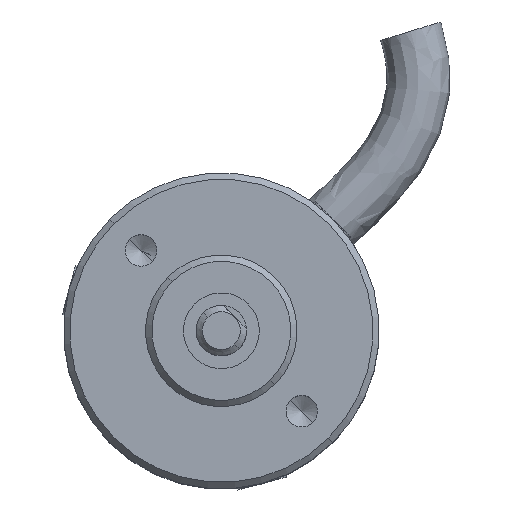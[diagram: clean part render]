
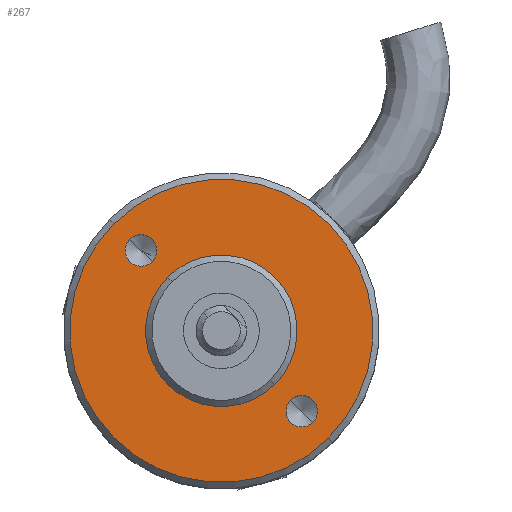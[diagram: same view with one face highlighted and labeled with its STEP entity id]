
A CAD part, top view. The second image highlights one B-rep face of the part: STEP entity #267.
In plain terms, the highlighted planar face has unit normal (0, 0, 1).
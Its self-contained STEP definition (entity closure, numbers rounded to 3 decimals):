
#141=PLANE('',#1222);
#267=ADVANCED_FACE('',(#340,#341,#342,#343),#141,.F.);
#340=FACE_BOUND('',#397,.T.);
#341=FACE_BOUND('',#398,.T.);
#342=FACE_BOUND('',#399,.T.);
#343=FACE_BOUND('',#400,.T.);
#397=EDGE_LOOP('',(#760,#761));
#398=EDGE_LOOP('',(#762,#763));
#399=EDGE_LOOP('',(#764,#765));
#400=EDGE_LOOP('',(#766,#767));
#760=ORIENTED_EDGE('',*,*,#1063,.F.);
#761=ORIENTED_EDGE('',*,*,#969,.F.);
#762=ORIENTED_EDGE('',*,*,#1064,.F.);
#763=ORIENTED_EDGE('',*,*,#975,.F.);
#764=ORIENTED_EDGE('',*,*,#1065,.T.);
#765=ORIENTED_EDGE('',*,*,#1001,.T.);
#766=ORIENTED_EDGE('',*,*,#1066,.F.);
#767=ORIENTED_EDGE('',*,*,#1009,.F.);
#882=VERTEX_POINT('',#1715);
#883=VERTEX_POINT('',#1717);
#887=VERTEX_POINT('',#1728);
#888=VERTEX_POINT('',#1730);
#909=VERTEX_POINT('',#1790);
#910=VERTEX_POINT('',#1791);
#915=VERTEX_POINT('',#1805);
#916=VERTEX_POINT('',#1807);
#969=EDGE_CURVE('',#882,#883,#1101,.T.);
#975=EDGE_CURVE('',#887,#888,#1103,.T.);
#1001=EDGE_CURVE('',#909,#910,#1115,.T.);
#1009=EDGE_CURVE('',#915,#916,#1120,.T.);
#1063=EDGE_CURVE('',#883,#882,#1131,.T.);
#1064=EDGE_CURVE('',#888,#887,#1132,.T.);
#1065=EDGE_CURVE('',#910,#909,#1133,.T.);
#1066=EDGE_CURVE('',#916,#915,#1134,.T.);
#1101=CIRCLE('',#1151,1.25);
#1103=CIRCLE('',#1155,1.25);
#1115=CIRCLE('',#1174,12.);
#1120=CIRCLE('',#1181,6.);
#1131=CIRCLE('',#1218,1.25);
#1132=CIRCLE('',#1219,1.25);
#1133=CIRCLE('',#1220,12.);
#1134=CIRCLE('',#1221,6.);
#1151=AXIS2_PLACEMENT_3D('',#1716,#1276,#1277);
#1155=AXIS2_PLACEMENT_3D('',#1729,#1288,#1289);
#1174=AXIS2_PLACEMENT_3D('',#1789,#1339,#1340);
#1181=AXIS2_PLACEMENT_3D('',#1806,#1356,#1357);
#1218=AXIS2_PLACEMENT_3D('',#2035,#1469,#1470);
#1219=AXIS2_PLACEMENT_3D('',#2036,#1471,#1472);
#1220=AXIS2_PLACEMENT_3D('',#2037,#1473,#1474);
#1221=AXIS2_PLACEMENT_3D('',#2038,#1475,#1476);
#1222=AXIS2_PLACEMENT_3D('',#2039,#1477,#1478);
#1276=DIRECTION('',(0.,0.,1.));
#1277=DIRECTION('',(0.707,-0.707,0.));
#1288=DIRECTION('',(0.,0.,1.));
#1289=DIRECTION('',(0.707,-0.707,0.));
#1339=DIRECTION('',(0.,0.,1.));
#1340=DIRECTION('',(-0.707,0.707,0.));
#1356=DIRECTION('',(0.,0.,1.));
#1357=DIRECTION('',(-0.707,0.707,0.));
#1469=DIRECTION('',(0.,0.,1.));
#1470=DIRECTION('',(0.707,-0.707,0.));
#1471=DIRECTION('',(0.,0.,1.));
#1472=DIRECTION('',(0.707,-0.707,0.));
#1473=DIRECTION('',(0.,0.,1.));
#1474=DIRECTION('',(-0.707,0.707,0.));
#1475=DIRECTION('',(0.,0.,1.));
#1476=DIRECTION('',(-0.707,0.707,0.));
#1477=DIRECTION('',(0.,0.,-1.));
#1478=DIRECTION('',(-0.707,0.707,0.));
#1715=CARTESIAN_POINT('',(4.812,-41.218,-7.));
#1716=CARTESIAN_POINT('',(5.696,-42.102,-7.));
#1717=CARTESIAN_POINT('',(6.58,-42.986,-7.));
#1728=CARTESIAN_POINT('',(-7.916,-28.49,-7.));
#1729=CARTESIAN_POINT('',(-7.032,-29.374,-7.));
#1730=CARTESIAN_POINT('',(-6.148,-30.258,-7.));
#1789=CARTESIAN_POINT('',(-0.668,-35.738,-7.));
#1790=CARTESIAN_POINT('',(7.817,-44.223,-7.));
#1791=CARTESIAN_POINT('',(-9.154,-27.253,-7.));
#1805=CARTESIAN_POINT('',(3.574,-39.98,-7.));
#1806=CARTESIAN_POINT('',(-0.668,-35.738,-7.));
#1807=CARTESIAN_POINT('',(-4.911,-31.495,-7.));
#2035=CARTESIAN_POINT('',(5.696,-42.102,-7.));
#2036=CARTESIAN_POINT('',(-7.032,-29.374,-7.));
#2037=CARTESIAN_POINT('',(-0.668,-35.738,-7.));
#2038=CARTESIAN_POINT('',(-0.668,-35.738,-7.));
#2039=CARTESIAN_POINT('',(-0.668,-35.738,-7.));
